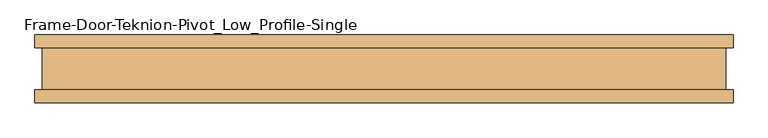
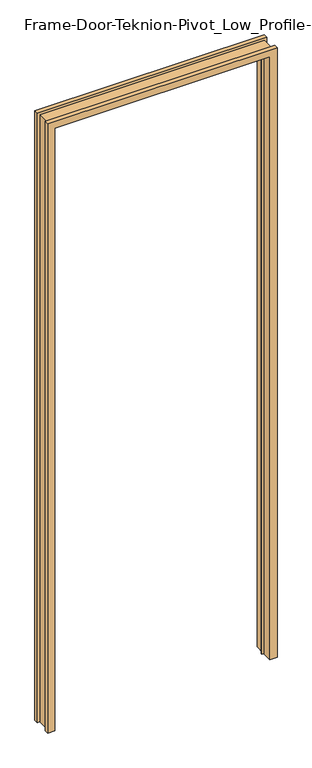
"""IFC4 building model written with IfcOpenShell, lengths in millimetres: door geometry, Frame-Door-Teknion-Pivot_Low_Profile-Single : FPFHS."""

from ifc_helpers import new_model, si_unit, origin, place, context, project, spatial, faceted_brep, source, transform, mapped, element, save


def frame_door_teknion_pivot_low_profile_single_097b559a(model_context):
    return source(origin(), model_context, "Body", "Brep", [
        faceted_brep([(-490.4072077, 50.8, 0.0), (-490.4072077, 0.2091047, 0.0), (-480.8884514, 0.2091047, 0.0), (-480.8884514, -3.8523166, 0.0), (-490.4072077, -3.8523166, 0.0), (-490.4072077, -50.8, 0.0), (-523.4208347, -50.8, 0.0), (-523.4208347, -31.5339997, 0.0), (-512.4152344, -31.5339997, 0.0), (-512.4152344, 31.5339997, 0.0), (-523.4208347, 31.5339997, 0.0), (-523.4208347, 50.8, 0.0), (490.4072077, 50.8, 0.0), (523.4208347, 50.8, 0.0), (523.4208347, 31.5339997, 0.0), (512.4152344, 31.5339997, 0.0), (512.4152344, -31.5339997, 0.0), (523.4208347, -31.5339997, 0.0), (523.4208347, -50.8, 0.0), (490.4072077, -50.8, 0.0), (490.4072077, -3.8523166, 0.0), (480.8884514, -3.8523166, 0.0), (480.8884514, 0.2091047, 0.0), (490.4072077, 0.2091047, 0.0), (-523.4208347, 50.8, 2941.32), (523.4208347, 50.8, 2941.32), (490.4072077, 50.8, 2908.3063731), (-490.4072077, 50.8, 2908.3063731), (-523.4208347, 31.5339997, 2941.32), (-512.4152344, 31.5339997, 2930.3143997), (512.4152344, 31.5339997, 2930.3143997), (523.4208347, 31.5339997, 2941.32), (-512.4152344, -31.5339997, 2930.3143997), (-523.4208347, -31.5339997, 2941.32), (523.4208347, -31.5339997, 2941.32), (512.4152344, -31.5339997, 2930.3143997), (-523.4208347, -50.8, 2941.32), (-490.4072077, -50.8, 2908.3063731), (490.4072077, -50.8, 2908.3063731), (523.4208347, -50.8, 2941.32), (-490.4072077, -3.8523166, 2908.3063731), (-480.8884514, -3.8523166, 2898.7876167), (480.8884514, -3.8523166, 2898.7876167), (490.4072077, -3.8523166, 2908.3063731), (-480.8884514, 0.2091047, 2898.7876167), (-490.4072077, 0.2091047, 2908.3063731), (490.4072077, 0.2091047, 2908.3063731), (480.8884514, 0.2091047, 2898.7876167)], [[[0, 1, 2, 3, 4, 5, 6, 7, 8, 9, 10, 11]], [[12, 13, 14, 15, 16, 17, 18, 19, 20, 21, 22, 23]], [[11, 24, 25, 13, 12, 26, 27, 0]], [[10, 28, 24, 11]], [[9, 29, 30, 15, 14, 31, 28, 10]], [[8, 32, 29, 9]], [[7, 33, 34, 17, 16, 35, 32, 8]], [[6, 36, 33, 7]], [[5, 37, 38, 19, 18, 39, 36, 6]], [[4, 40, 37, 5]], [[3, 41, 42, 21, 20, 43, 40, 4]], [[2, 44, 41, 3]], [[1, 45, 46, 23, 22, 47, 44, 2]], [[0, 27, 45, 1]], [[26, 12, 23, 46]], [[47, 22, 21, 42]], [[43, 20, 19, 38]], [[39, 18, 17, 34]], [[35, 16, 15, 30]], [[31, 14, 13, 25]], [[28, 31, 25, 24]], [[32, 35, 30, 29]], [[36, 39, 34, 33]], [[40, 43, 38, 37]], [[44, 47, 42, 41]], [[27, 26, 46, 45]]]),
    ])


if __name__ == "__main__":
    model = new_model("IFC4")
    model_context = context("Model", 3, world=origin())
    ifc_project = project(units=[si_unit("LENGTHUNIT", "METRE", prefix="MILLI")], contexts=[model_context])
    site = spatial("IfcSite", under=ifc_project)
    building = spatial("IfcBuilding", under=site)
    placement = place(None, origin())
    frame_door_teknion_pivot_low_profile_single_shape = frame_door_teknion_pivot_low_profile_single_097b559a(model_context)
    element("IfcDoor", 1, ObjectType="Frame-Door-Teknion-Pivot_Low_Profile-Single : FPFHS", at=placement, inside=building, context=model_context, shape_type="MappedRepresentation", body=[
        mapped(frame_door_teknion_pivot_low_profile_single_shape, transform((0.0, 0.0, 0.0), x_axis=(1.0, 0.0, 0.0), y_axis=(0.0, 1.0, 0.0), z_axis=(0.0, 0.0, 1.0))),
    ])
    save(model, "model.ifc")
